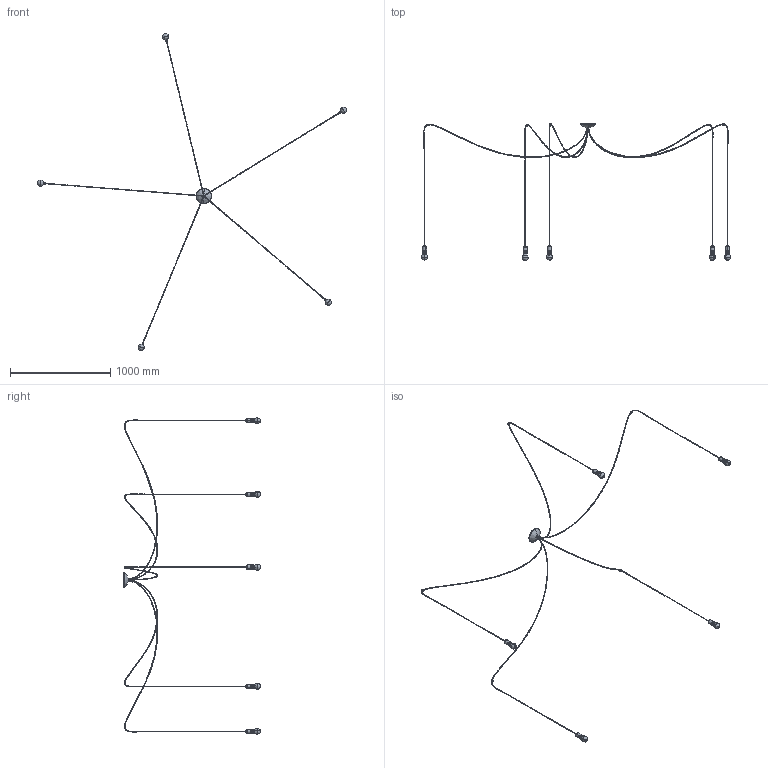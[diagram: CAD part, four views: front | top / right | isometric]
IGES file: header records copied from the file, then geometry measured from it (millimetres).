
Start section: SolidWorks IGES file using analytic representation for surfaces
Global section: file name: Z:\Modele 3D_WWW\_KOLEKCJE_WWW\SPIDER\SPIDER-6788-9744\SPIDER-6788-9744.IGS; native system: SolidWorks 2020; preprocessor: SolidWorks 2020; author: gabriela.tworek; date: 210401.145541; units: millimetre
Bounding box: 3079.65 x 1363.47 x 3155.95 mm (x, y, z)
Surface area: 607864.6 mm2 (no closed solid volume)
Topology: 0 solids, 0 shells, 1134 faces, 18939 edges, 18817 vertices
Faces by surface type: revolution 584, bspline 550
